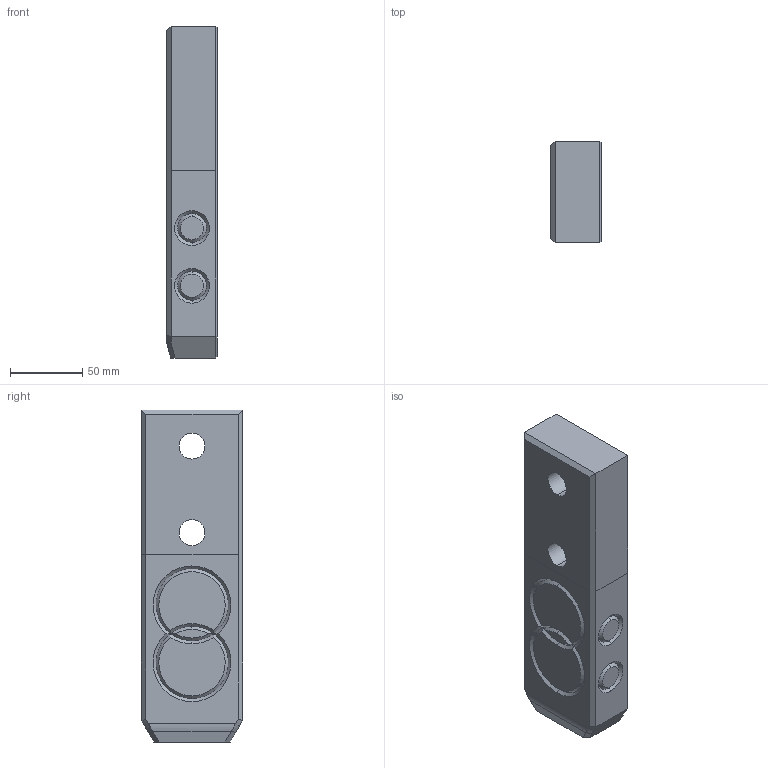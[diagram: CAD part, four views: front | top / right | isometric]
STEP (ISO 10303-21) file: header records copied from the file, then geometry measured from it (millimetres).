
FILE_DESCRIPTION((''),'2;1');
FILE_NAME('','2010-08-30T18:25:53+09:00',('misumi'),(''),'M/STEP i/f 1R2-14','CADmeister v5.1','');
FILE_SCHEMA(('AUTOMOTIVE_DESIGN'));
Length unit declared in the file: millimetre
Products named in the file (1): OG70-230
Bounding box: 35 x 70 x 230 mm (x, y, z)
Volume: 535468.6 mm3; surface area: 54903.3 mm2
Topology: 1 solids, 1 shells, 68 faces, 156 edges, 95 vertices
Faces by surface type: plane 30, cone 28, cylinder 5, bspline 5
Entity records: 3534 total; most frequent: CARTESIAN_POINT 1229, ORIENTED_EDGE 312, DIRECTION 289, COLOUR_RGB 179, CURVE_STYLE 168, PRESENTATION_STYLE_ASSIGNMENT 167, OVER_RIDING_STYLED_ITEM 166, EDGE_CURVE 156
